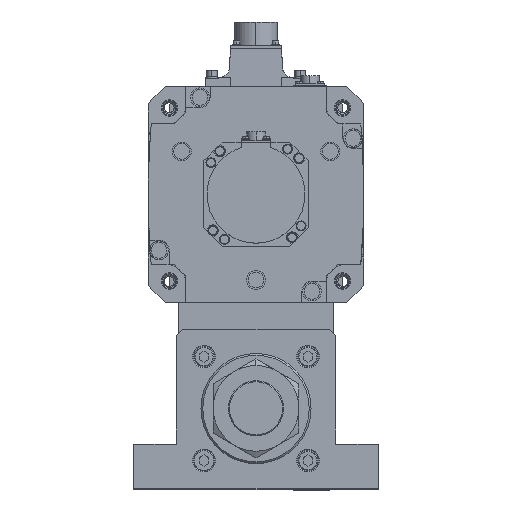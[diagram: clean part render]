
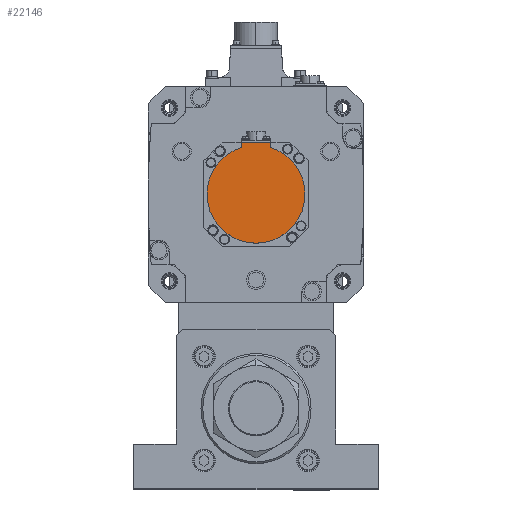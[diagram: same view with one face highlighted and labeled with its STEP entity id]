
A CAD part, top view. The second image highlights one B-rep face of the part: STEP entity #22146.
In plain terms, the highlighted planar face has unit normal (0, 0, 1) as drawn and (0, 0, -1) by its records, which use the part's own axes.
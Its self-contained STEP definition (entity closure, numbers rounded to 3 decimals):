
#1067 = EDGE_CURVE ( 'NONE', #10458, #4997, #31327, .T. ) ;
#4835 = ORIENTED_EDGE ( 'NONE', *, *, #1067, .T. ) ;
#4997 = VERTEX_POINT ( 'NONE', #14759 ) ;
#5180 = CARTESIAN_POINT ( 'NONE',  ( 0., -42.5, -188. ) ) ;
#7156 = CARTESIAN_POINT ( 'NONE',  ( 0., 0., -188. ) ) ;
#7948 = DIRECTION ( 'NONE',  ( 0., 1., 0. ) ) ;
#9063 = DIRECTION ( 'NONE',  ( -1., 0., 0. ) ) ;
#9677 = LINE ( 'NONE', #37404, #22321 ) ;
#10458 = VERTEX_POINT ( 'NONE', #46778 ) ;
#10555 = DIRECTION ( 'NONE',  ( 0., 0., 1. ) ) ;
#10673 = DIRECTION ( 'NONE',  ( 1., 0., 0. ) ) ;
#11778 = DIRECTION ( 'NONE',  ( 0., 0., 1. ) ) ;
#11882 = AXIS2_PLACEMENT_3D ( 'NONE', #44809, #27562, #10673 ) ;
#14089 = VERTEX_POINT ( 'NONE', #40898 ) ;
#14759 = CARTESIAN_POINT ( 'NONE',  ( -12., -42.5, -188. ) ) ;
#15221 = ORIENTED_EDGE ( 'NONE', *, *, #40733, .T. ) ;
#16299 = ORIENTED_EDGE ( 'NONE', *, *, #25334, .F. ) ;
#18195 = PLANE ( 'NONE',  #30234 ) ;
#21521 = ORIENTED_EDGE ( 'NONE', *, *, #30108, .F. ) ;
#21879 = CARTESIAN_POINT ( 'NONE',  ( 12., -1.249, -188. ) ) ;
#22146 = ADVANCED_FACE ( 'NONE', ( #25769 ), #18195, .F. ) ;
#22321 = VECTOR ( 'NONE', #37944, 1000. ) ;
#22353 = EDGE_CURVE ( 'NONE', #10458, #54002, #40349, .T. ) ;
#24823 = ORIENTED_EDGE ( 'NONE', *, *, #46795, .F. ) ;
#25334 = EDGE_CURVE ( 'NONE', #14089, #28702, #44076, .T. ) ;
#25769 = FACE_OUTER_BOUND ( 'NONE', #53401, .T. ) ;
#26022 = VECTOR ( 'NONE', #9063, 1000. ) ;
#27562 = DIRECTION ( 'NONE',  ( 0., 0., 1. ) ) ;
#28242 = CARTESIAN_POINT ( 'NONE',  ( -12., -38.158, -188. ) ) ;
#28702 = VERTEX_POINT ( 'NONE', #44490 ) ;
#30023 = CARTESIAN_POINT ( 'NONE',  ( 12., -38.158, -188. ) ) ;
#30108 = EDGE_CURVE ( 'NONE', #28702, #51712, #44987, .T. ) ;
#30234 = AXIS2_PLACEMENT_3D ( 'NONE', #40259, #10555, #36142 ) ;
#31327 = LINE ( 'NONE', #5180, #26022 ) ;
#32136 = CARTESIAN_POINT ( 'NONE',  ( 0., 0., -188. ) ) ;
#32832 = ORIENTED_EDGE ( 'NONE', *, *, #22353, .F. ) ;
#33404 = AXIS2_PLACEMENT_3D ( 'NONE', #7156, #11778, #36812 ) ;
#36142 = DIRECTION ( 'NONE',  ( 1., 0., 0. ) ) ;
#36812 = DIRECTION ( 'NONE',  ( 1., 0., 0. ) ) ;
#37404 = CARTESIAN_POINT ( 'NONE',  ( -12., -40.329, -188. ) ) ;
#37944 = DIRECTION ( 'NONE',  ( 0., 1., 0. ) ) ;
#38177 = CIRCLE ( 'NONE', #33404, 40. ) ;
#40259 = CARTESIAN_POINT ( 'NONE',  ( 0., -1.249, -188. ) ) ;
#40349 = LINE ( 'NONE', #21879, #50352 ) ;
#40733 = EDGE_CURVE ( 'NONE', #4997, #51712, #9677, .T. ) ;
#40891 = DIRECTION ( 'NONE',  ( 1., 0., 0. ) ) ;
#40898 = CARTESIAN_POINT ( 'NONE',  ( 40., 0., -188. ) ) ;
#44076 = CIRCLE ( 'NONE', #11882, 40. ) ;
#44490 = CARTESIAN_POINT ( 'NONE',  ( -40., 0., -188. ) ) ;
#44809 = CARTESIAN_POINT ( 'NONE',  ( 0., 0., -188. ) ) ;
#44987 = CIRCLE ( 'NONE', #47999, 40. ) ;
#46778 = CARTESIAN_POINT ( 'NONE',  ( 12., -42.5, -188. ) ) ;
#46795 = EDGE_CURVE ( 'NONE', #54002, #14089, #38177, .T. ) ;
#47999 = AXIS2_PLACEMENT_3D ( 'NONE', #32136, #49464, #40891 ) ;
#49464 = DIRECTION ( 'NONE',  ( 0., 0., 1. ) ) ;
#50352 = VECTOR ( 'NONE', #7948, 1000. ) ;
#51712 = VERTEX_POINT ( 'NONE', #28242 ) ;
#53401 = EDGE_LOOP ( 'NONE', ( #15221, #21521, #16299, #24823, #32832, #4835 ) ) ;
#54002 = VERTEX_POINT ( 'NONE', #30023 ) ;
